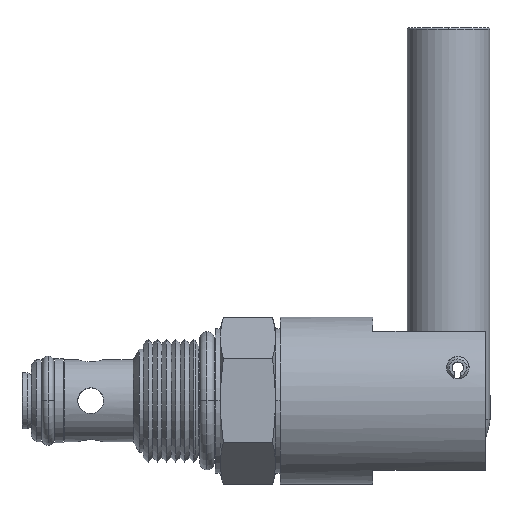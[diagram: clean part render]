
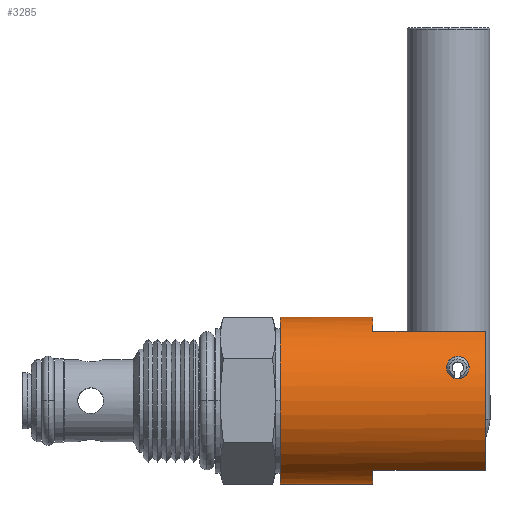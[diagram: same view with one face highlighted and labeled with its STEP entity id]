
A CAD part, top view. The second image highlights one B-rep face of the part: STEP entity #3285.
In plain terms, the highlighted cylindrical face has radius 12.827 mm (diameter 25.654 mm), a partial arc.
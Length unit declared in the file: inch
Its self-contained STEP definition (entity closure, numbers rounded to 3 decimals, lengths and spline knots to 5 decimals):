
#2849=CARTESIAN_POINT('',(0.394,-0.505,0.));
#2850=VERTEX_POINT('',#2849);
#2851=CARTESIAN_POINT('',(0.954,-0.505,0.));
#2852=VERTEX_POINT('',#2851);
#2853=CARTESIAN_POINT('',(0.394,-0.505,0.));
#2854=DIRECTION('',(1.0,0.0,0.0));
#2855=VECTOR('',#2854,0.56);
#2856=LINE('',#2853,#2855);
#2857=EDGE_CURVE('',#2850,#2852,#2856,.T.);
#2859=CARTESIAN_POINT('',(0.394,0.505,0.));
#2860=VERTEX_POINT('',#2859);
#2868=CARTESIAN_POINT('',(0.954,0.505,0.));
#2869=VERTEX_POINT('',#2868);
#2870=CARTESIAN_POINT('',(0.954,0.505,0.));
#2871=DIRECTION('',(-1.0,0.0,0.0));
#2872=VECTOR('',#2871,0.56);
#2873=LINE('',#2870,#2872);
#2874=EDGE_CURVE('',#2869,#2860,#2873,.T.);
#2982=CARTESIAN_POINT('',(1.536,0.2,0.46371));
#2983=VERTEX_POINT('',#2982);
#2999=CARTESIAN_POINT('',(1.4,0.2,0.46371));
#3000=VERTEX_POINT('',#2999);
#3007=CARTESIAN_POINT('',(1.536,0.2,0.46371));
#3008=CARTESIAN_POINT('',(1.536,0.19161,0.46733));
#3009=CARTESIAN_POINT('',(1.53435,0.1825,0.47096));
#3010=CARTESIAN_POINT('',(1.52732,0.16552,0.47719));
#3011=CARTESIAN_POINT('',(1.52194,0.15764,0.47981));
#3012=CARTESIAN_POINT('',(1.50963,0.1456,0.48359));
#3013=CARTESIAN_POINT('',(1.5021,0.14049,0.48508));
#3014=CARTESIAN_POINT('',(1.48553,0.13369,0.48699));
#3015=CARTESIAN_POINT('',(1.47649,0.132,0.48744));
#3016=CARTESIAN_POINT('',(1.45951,0.132,0.48744));
#3017=CARTESIAN_POINT('',(1.45047,0.13369,0.48699));
#3018=CARTESIAN_POINT('',(1.4339,0.14049,0.48508));
#3019=CARTESIAN_POINT('',(1.42637,0.1456,0.48359));
#3020=CARTESIAN_POINT('',(1.41406,0.15764,0.47981));
#3021=CARTESIAN_POINT('',(1.40868,0.16552,0.47719));
#3022=CARTESIAN_POINT('',(1.40165,0.1825,0.47096));
#3023=CARTESIAN_POINT('',(1.4,0.19161,0.46733));
#3024=CARTESIAN_POINT('',(1.4,0.2,0.46371));
#3025=B_SPLINE_CURVE_WITH_KNOTS('',3,(#3007,#3008,#3009,#3010,#3011,#3012,#3013,#3014,#3015,#3016,#3017,#3018,#3019,#3020,#3021,#3022,#3023,#3024),.UNSPECIFIED.,.F.,.U.,(4,2,2,2,2,2,2,2,4),(0.10896,0.13636,0.16377,0.18925,0.21473,0.2402,0.26568,0.29309,0.32049),.UNSPECIFIED.);
#3026=EDGE_CURVE('',#2983,#3000,#3025,.T.);
#3076=CARTESIAN_POINT('',(0.954,0.42027,0.28));
#3077=VERTEX_POINT('',#3076);
#3078=CARTESIAN_POINT('',(0.954,0.0,0.0));
#3079=DIRECTION('',(-1.0,0.0,0.0));
#3080=DIRECTION('',(0.0,-1.0,0.0));
#3081=AXIS2_PLACEMENT_3D('',#3078,#3079,#3080);
#3082=CIRCLE('',#3081,0.505);
#3083=EDGE_CURVE('',#3077,#2869,#3082,.T.);
#3085=CARTESIAN_POINT('',(0.954,-0.42027,0.28));
#3086=VERTEX_POINT('',#3085);
#3093=CARTESIAN_POINT('',(0.954,0.0,0.0));
#3094=DIRECTION('',(-1.0,0.0,0.0));
#3095=DIRECTION('',(0.0,-1.0,0.0));
#3096=AXIS2_PLACEMENT_3D('',#3093,#3094,#3095);
#3097=CIRCLE('',#3096,0.505);
#3098=EDGE_CURVE('',#2852,#3086,#3097,.T.);
#3119=CARTESIAN_POINT('',(0.394,0.0,0.0));
#3120=DIRECTION('',(1.0,0.0,0.0));
#3121=DIRECTION('',(0.0,-1.0,0.0));
#3122=AXIS2_PLACEMENT_3D('',#3119,#3120,#3121);
#3123=CIRCLE('',#3122,0.505);
#3124=EDGE_CURVE('',#2860,#2850,#3123,.T.);
#3164=CARTESIAN_POINT('',(1.468,0.268,0.42802));
#3165=VERTEX_POINT('',#3164);
#3166=CARTESIAN_POINT('',(1.468,0.268,0.42802));
#3167=CARTESIAN_POINT('',(1.47655,0.268,0.42802));
#3168=CARTESIAN_POINT('',(1.48555,0.26628,0.42911));
#3169=CARTESIAN_POINT('',(1.50186,0.25962,0.43317));
#3170=CARTESIAN_POINT('',(1.50919,0.25469,0.43612));
#3171=CARTESIAN_POINT('',(1.52142,0.24301,0.44274));
#3172=CARTESIAN_POINT('',(1.5269,0.23523,0.44697));
#3173=CARTESIAN_POINT('',(1.53419,0.21813,0.45556));
#3174=CARTESIAN_POINT('',(1.536,0.20882,0.4599));
#3175=CARTESIAN_POINT('',(1.536,0.2,0.46371));
#3176=B_SPLINE_CURVE_WITH_KNOTS('',3,(#3166,#3167,#3168,#3169,#3170,#3171,#3172,#3173,#3174,#3175),.UNSPECIFIED.,.F.,.U.,(4,2,2,2,4),(0.0,0.02566,0.05133,0.08014,0.10896),.UNSPECIFIED.);
#3177=EDGE_CURVE('',#3165,#2983,#3176,.T.);
#3179=CARTESIAN_POINT('',(1.4,0.2,0.46371));
#3180=CARTESIAN_POINT('',(1.4,0.20882,0.4599));
#3181=CARTESIAN_POINT('',(1.40181,0.21813,0.45556));
#3182=CARTESIAN_POINT('',(1.4091,0.23523,0.44697));
#3183=CARTESIAN_POINT('',(1.41458,0.24301,0.44274));
#3184=CARTESIAN_POINT('',(1.42681,0.25469,0.43612));
#3185=CARTESIAN_POINT('',(1.43414,0.25962,0.43317));
#3186=CARTESIAN_POINT('',(1.45045,0.26628,0.42911));
#3187=CARTESIAN_POINT('',(1.45945,0.268,0.42802));
#3188=CARTESIAN_POINT('',(1.468,0.268,0.42802));
#3189=B_SPLINE_CURVE_WITH_KNOTS('',3,(#3179,#3180,#3181,#3182,#3183,#3184,#3185,#3186,#3187,#3188),.UNSPECIFIED.,.F.,.U.,(4,2,2,2,4),(0.32049,0.34931,0.37812,0.40379,0.42945),.UNSPECIFIED.);
#3190=EDGE_CURVE('',#3000,#3165,#3189,.T.);
#3208=CARTESIAN_POINT('',(1.634,-0.42027,0.28));
#3209=VERTEX_POINT('',#3208);
#3210=CARTESIAN_POINT('',(0.954,-0.42027,0.28));
#3211=DIRECTION('',(1.0,0.0,0.0));
#3212=VECTOR('',#3211,0.68);
#3213=LINE('',#3210,#3212);
#3214=EDGE_CURVE('',#3086,#3209,#3213,.T.);
#3217=CARTESIAN_POINT('',(1.634,0.42027,0.28));
#3218=VERTEX_POINT('',#3217);
#3219=CARTESIAN_POINT('',(1.634,0.42027,0.28));
#3220=DIRECTION('',(-1.0,0.0,0.0));
#3221=VECTOR('',#3220,0.68);
#3222=LINE('',#3219,#3221);
#3223=EDGE_CURVE('',#3218,#3077,#3222,.T.);
#3259=CARTESIAN_POINT('',(0.394,0.0,0.0));
#3260=DIRECTION('',(1.0,0.,0.));
#3261=DIRECTION('',(0.0,-1.0,0.0));
#3262=AXIS2_PLACEMENT_3D('',#3259,#3260,#3261);
#3263=CYLINDRICAL_SURFACE('',#3262,0.505);
#3264=ORIENTED_EDGE('',*,*,#2857,.T.);
#3265=ORIENTED_EDGE('',*,*,#3098,.T.);
#3266=ORIENTED_EDGE('',*,*,#3214,.T.);
#3267=CARTESIAN_POINT('',(1.634,0.0,0.0));
#3268=DIRECTION('',(-1.0,0.0,0.0));
#3269=DIRECTION('',(0.0,-1.0,0.0));
#3270=AXIS2_PLACEMENT_3D('',#3267,#3268,#3269);
#3271=CIRCLE('',#3270,0.505);
#3272=EDGE_CURVE('',#3209,#3218,#3271,.T.);
#3273=ORIENTED_EDGE('',*,*,#3272,.T.);
#3274=ORIENTED_EDGE('',*,*,#3223,.T.);
#3275=ORIENTED_EDGE('',*,*,#3083,.T.);
#3276=ORIENTED_EDGE('',*,*,#2874,.T.);
#3277=ORIENTED_EDGE('',*,*,#3124,.T.);
#3278=EDGE_LOOP('',(#3264,#3265,#3266,#3273,#3274,#3275,#3276,#3277));
#3279=FACE_OUTER_BOUND('',#3278,.T.);
#3280=ORIENTED_EDGE('',*,*,#3177,.T.);
#3281=ORIENTED_EDGE('',*,*,#3026,.T.);
#3282=ORIENTED_EDGE('',*,*,#3190,.T.);
#3283=EDGE_LOOP('',(#3280,#3281,#3282));
#3284=FACE_BOUND('',#3283,.T.);
#3285=ADVANCED_FACE('',(#3279,#3284),#3263,.T.);
